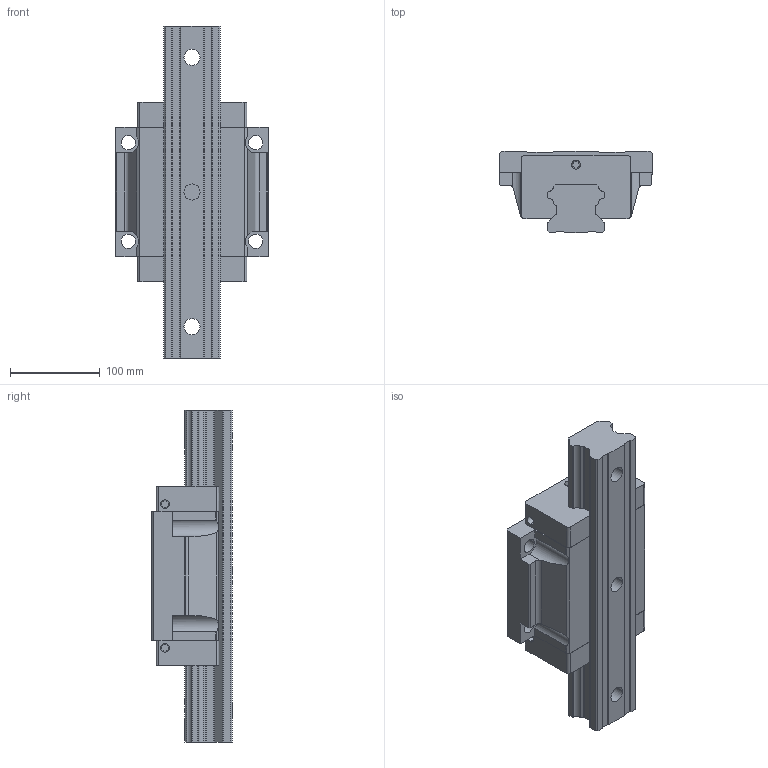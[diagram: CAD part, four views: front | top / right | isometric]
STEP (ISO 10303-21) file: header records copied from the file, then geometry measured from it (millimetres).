
FILE_DESCRIPTION((''),'2;1');
FILE_NAME('HGW65CC_ASM','2008-07-11T',('minyao'),(''),'PRO/ENGINEER BY PARAMETRIC TECHNOLOGY CORPORATION, 2004360','PRO/ENGINEER BY PARAMETRIC TECHNOLOGY CORPORATION, 2004360','');
FILE_SCHEMA(('CONFIG_CONTROL_DESIGN'));
Length unit declared in the file: millimetre
Products named in the file (5): HGW65_1; HGR65_1; HGW65_ASM_1_ASM; 1; HGW65CC_ASM
Assembly tree (5 placements, depth 3):
  HGW65CC_ASM
    HGW65_ASM_1_ASM
      HGW65_1
      HGR65_1
    1  x2
Bounding box: 170 x 90 x 370 mm (x, y, z)
Volume: 2806273.5 mm3; surface area: 275050.1 mm2
Topology: 4 solids, 4 shells, 245 faces, 683 edges, 458 vertices
Faces by surface type: plane 154, cylinder 73, cone 18
Entity records: 6762 total; most frequent: CARTESIAN_POINT 1227, ORIENTED_EDGE 1138, DIRECTION 1131, EDGE_CURVE 569, VECTOR 403, LINE 403, VERTEX_POINT 382, AXIS2_PLACEMENT_3D 364
